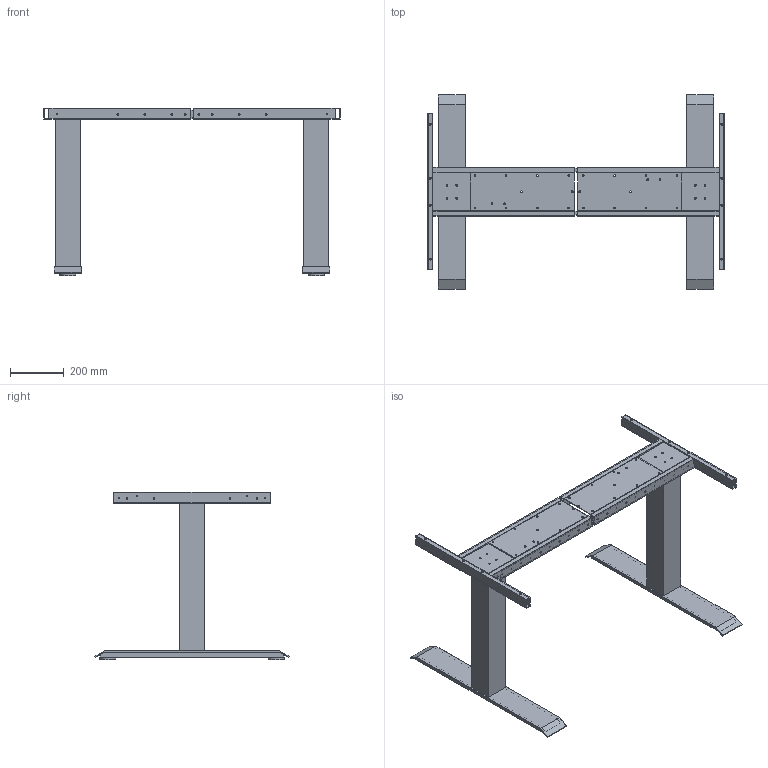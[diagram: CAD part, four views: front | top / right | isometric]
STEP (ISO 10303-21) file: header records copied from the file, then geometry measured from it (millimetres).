
FILE_DESCRIPTION( ( 'STEP AP214' ), '1' );
FILE_NAME( 'C:/Users/swati/Desktop/3D_check/QC2/QC/9193251/9193251.stp', ' ', ( ' ' ), ( ' ' ), 'PSStep 15.0.47', 'PARTsolutions', ' ' );
FILE_SCHEMA( ( 'AUTOMOTIVE_DESIGN { 1 0 10303 214 1 1 1 1 }' ) );
Length unit declared in the file: millimetre
Products named in the file (5): 95 ; _
Assembly tree (8 placements, depth 2):
  95 
    _  x2
    _  x2
    _  x2
    _  x2
Bounding box: 1100 x 720 x 620.5 mm (x, y, z)
Volume: 13509023.4 mm3; surface area: 2167409.9 mm2
Topology: 8 solids, 8 shells, 324 faces, 938 edges, 646 vertices
Faces by surface type: plane 168, cylinder 156
Full cylindrical faces by diameter (mm): 4 x60, 5.5 x16, 6 x32, 6.5 x32, 6.7 x8, 10 x4, 60 x4
Entity records: 6466 total; most frequent: DIRECTION 858, CARTESIAN_POINT 823, ORIENTED_EDGE 720, EDGE_LOOP 400, EDGE_CURVE 360, AXIS2_PLACEMENT_3D 327, VERTEX_POINT 292, FACE_OUTER_BOUND 240
